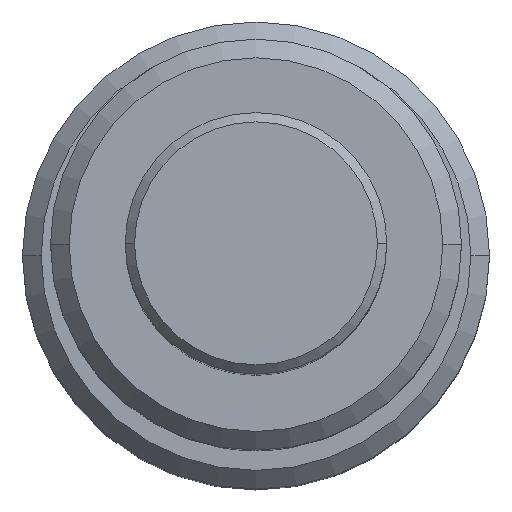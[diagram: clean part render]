
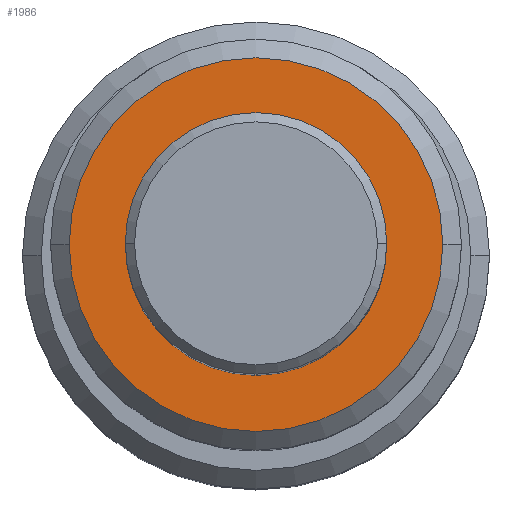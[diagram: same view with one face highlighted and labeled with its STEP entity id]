
A CAD part, top view. The second image highlights one B-rep face of the part: STEP entity #1986.
In plain terms, the highlighted planar face has unit normal (0, 0, 1).
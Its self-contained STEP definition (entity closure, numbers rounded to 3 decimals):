
#97 = CARTESIAN_POINT ( 'NONE',  ( 7., 0., 400. ) ) ;
#112 = CARTESIAN_POINT ( 'NONE',  ( -7., 0., 400. ) ) ;
#127 = CARTESIAN_POINT ( 'NONE',  ( 10., 0., 400. ) ) ;
#153 = CARTESIAN_POINT ( 'NONE',  ( -10., 0., 400. ) ) ;
#351 = DIRECTION ( 'NONE',  ( -1., 0., 0. ) ) ;
#352 = DIRECTION ( 'NONE',  ( 0., 0., 1. ) ) ;
#353 = CARTESIAN_POINT ( 'NONE',  ( 0., 0., 400. ) ) ;
#630 = DIRECTION ( 'NONE',  ( -1., 0., 0. ) ) ;
#631 = DIRECTION ( 'NONE',  ( 0., 0., 1. ) ) ;
#632 = CARTESIAN_POINT ( 'NONE',  ( 0., 0., 400. ) ) ;
#635 = DIRECTION ( 'NONE',  ( -1., 0., 0. ) ) ;
#636 = DIRECTION ( 'NONE',  ( 0., 0., 1. ) ) ;
#637 = CARTESIAN_POINT ( 'NONE',  ( 0., 0., 400. ) ) ;
#773 = EDGE_CURVE ( 'NONE', #1243, #1315, #940, .T. ) ;
#813 = EDGE_CURVE ( 'NONE', #1315, #1243, #1085, .T. ) ;
#814 = EDGE_CURVE ( 'NONE', #1445, #1383, #1083, .T. ) ;
#940 = CIRCLE ( 'NONE', #1063, 10. ) ;
#957 = AXIS2_PLACEMENT_3D ( 'NONE', #1553, #1551, #1549 ) ;
#965 = CIRCLE ( 'NONE', #957, 7. ) ;
#974 = AXIS2_PLACEMENT_3D ( 'NONE', #1619, #1609, #1608 ) ;
#1063 = AXIS2_PLACEMENT_3D ( 'NONE', #353, #352, #351 ) ;
#1078 = AXIS2_PLACEMENT_3D ( 'NONE', #632, #631, #630 ) ;
#1082 = AXIS2_PLACEMENT_3D ( 'NONE', #637, #636, #635 ) ;
#1083 = CIRCLE ( 'NONE', #1078, 7. ) ;
#1085 = CIRCLE ( 'NONE', #1082, 10. ) ;
#1202 = ORIENTED_EDGE ( 'NONE', *, *, #1998, .F. ) ;
#1243 = VERTEX_POINT ( 'NONE', #153 ) ;
#1315 = VERTEX_POINT ( 'NONE', #127 ) ;
#1316 = ORIENTED_EDGE ( 'NONE', *, *, #813, .T. ) ;
#1378 = ORIENTED_EDGE ( 'NONE', *, *, #773, .T. ) ;
#1383 = VERTEX_POINT ( 'NONE', #112 ) ;
#1445 = VERTEX_POINT ( 'NONE', #97 ) ;
#1455 = ORIENTED_EDGE ( 'NONE', *, *, #814, .F. ) ;
#1549 = DIRECTION ( 'NONE',  ( -1., 0., 0. ) ) ;
#1551 = DIRECTION ( 'NONE',  ( 0., 0., 1. ) ) ;
#1553 = CARTESIAN_POINT ( 'NONE',  ( 0., 0., 400. ) ) ;
#1608 = DIRECTION ( 'NONE',  ( -1., 0., 0. ) ) ;
#1609 = DIRECTION ( 'NONE',  ( 0., 0., 1. ) ) ;
#1611 = PLANE ( 'NONE',  #974 ) ;
#1613 = FACE_OUTER_BOUND ( 'NONE', #1748, .T. ) ;
#1618 = FACE_BOUND ( 'NONE', #1839, .T. ) ;
#1619 = CARTESIAN_POINT ( 'NONE',  ( 0., 11., 400. ) ) ;
#1748 = EDGE_LOOP ( 'NONE', ( #1316, #1378 ) ) ;
#1839 = EDGE_LOOP ( 'NONE', ( #1202, #1455 ) ) ;
#1986 = ADVANCED_FACE ( 'NONE', ( #1613, #1618 ), #1611, .T. ) ;
#1998 = EDGE_CURVE ( 'NONE', #1383, #1445, #965, .T. ) ;
